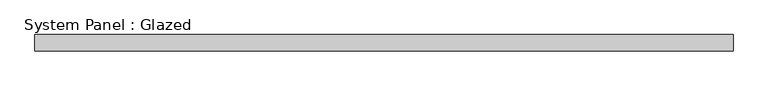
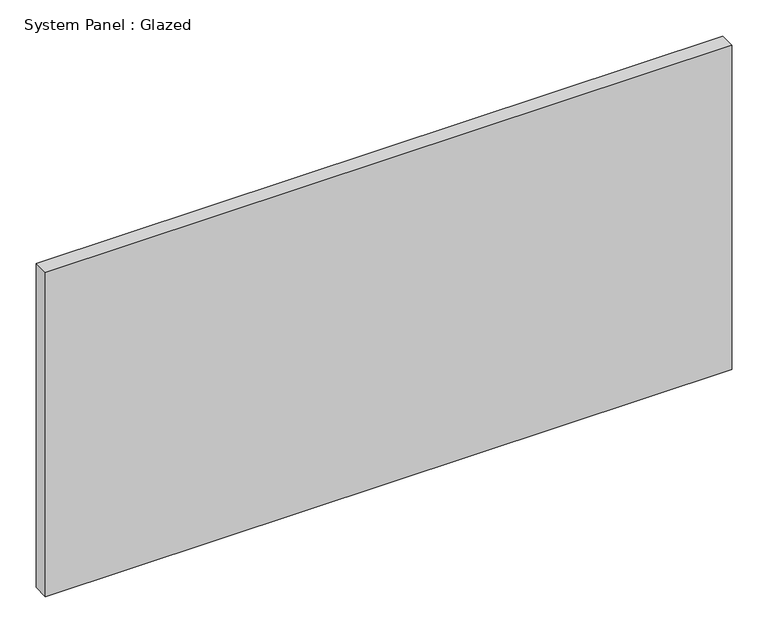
"""IFC4 building model written with IfcOpenShell, lengths in millimetres: plate geometry, System Panel : Glazed."""

from ifc_helpers import new_model, si_unit, origin, origin_with_axes, place, context, project, spatial, polyline, outline, extrude, source, transform, mapped, element, save


def system_panel_glazed_cd8bb020(model_context):
    return source(origin(), model_context, "Body", "SweptSolid", [
        extrude(outline(polyline([(546.4175, -44.45), (-546.4175, -44.45), (-546.4175, -19.05), (546.4175, -19.05), (546.4175, -44.45)])), origin_with_axes(), (0.0, 0.0, 1.0), 546.1),
    ])


if __name__ == "__main__":
    model = new_model("IFC4")
    model_context = context("Model", 3, world=origin())
    ifc_project = project(units=[si_unit("LENGTHUNIT", "METRE", prefix="MILLI")], contexts=[model_context])
    site = spatial("IfcSite", under=ifc_project)
    building = spatial("IfcBuilding", under=site)
    placement = place(None, origin())
    system_panel_glazed_shape = system_panel_glazed_cd8bb020(model_context)
    element("IfcPlate", 1, ObjectType="System Panel : Glazed", at=placement, inside=building, context=model_context, shape_type="MappedRepresentation", body=[
        mapped(system_panel_glazed_shape, transform((0.0, 0.0, 0.0), x_axis=(1.0, 0.0, 0.0), y_axis=(0.0, 1.0, 0.0), z_axis=(0.0, 0.0, 1.0))),
    ])
    save(model, "model.ifc")
